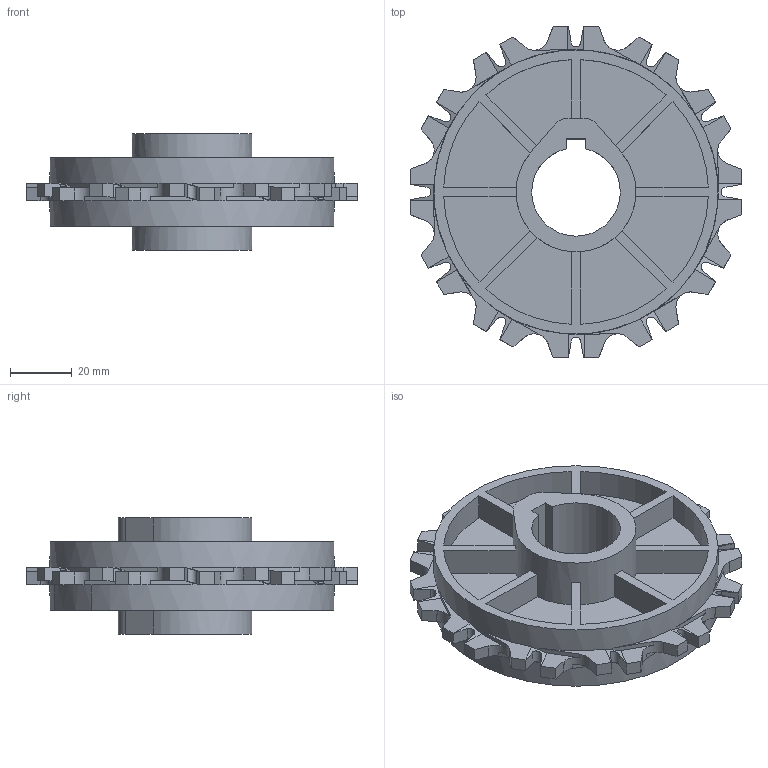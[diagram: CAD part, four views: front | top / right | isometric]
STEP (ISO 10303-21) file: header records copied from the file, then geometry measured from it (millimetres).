
FILE_DESCRIPTION((''),'2;1');
FILE_NAME('S900_SPROCKET_41X25_PILOT','2008-12-12T',('jmumphre'),(''),'PRO/ENGINEER BY PARAMETRIC TECHNOLOGY CORPORATION, 2008150','PRO/ENGINEER BY PARAMETRIC TECHNOLOGY CORPORATION, 2008150','');
FILE_SCHEMA(('CONFIG_CONTROL_DESIGN'));
Length unit declared in the file: inch
Products named in the file (1): S900_SPROCKET_41X25_PILOT
Bounding box: 106.99 x 106.99 x 37.59 mm (x, y, z)
Volume: 79428.8 mm3; surface area: 40592.1 mm2
Topology: 1 solids, 1 shells, 746 faces, 2211 edges, 1506 vertices
Faces by surface type: plane 606, cylinder 140
Entity records: 25443 total; most frequent: CARTESIAN_POINT 5231, ORIENTED_EDGE 4422, DIRECTION 3911, EDGE_CURVE 2211, VECTOR 1763, LINE 1763, VERTEX_POINT 1506, AXIS2_PLACEMENT_3D 1074
